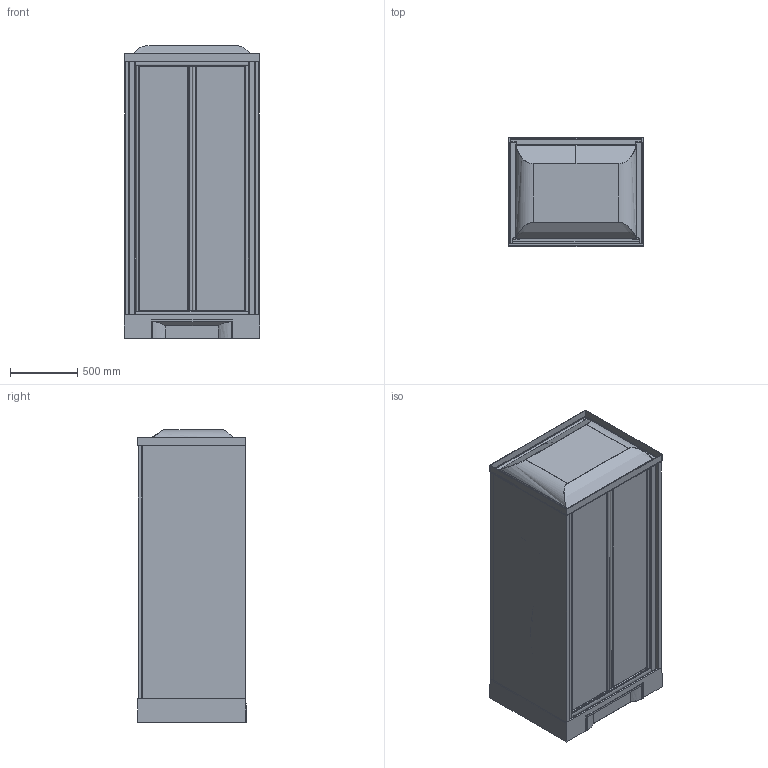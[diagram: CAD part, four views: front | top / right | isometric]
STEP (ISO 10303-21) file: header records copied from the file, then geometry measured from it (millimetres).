
FILE_DESCRIPTION(('STEP AP203'),'2;1');
FILE_NAME('NNH BI 100 M T.stp','2015-09-04T15:05:29',(''),(''),'2014.1.117','THINKDESIGN','');
FILE_SCHEMA(('CONFIG_CONTROL_DESIGN'));
Bounding box: 1004.04 x 807.53 x 2170 mm (x, y, z)
Volume: 273706906.6 mm3; surface area: 20918830.6 mm2
Topology: 24 solids, 24 shells, 635 faces, 1642 edges, 1060 vertices
Faces by surface type: bspline 361, plane 225, cylinder 49
Entity records: 70049 total; most frequent: CARTESIAN_POINT 57282, ORIENTED_EDGE 3178, EDGE_CURVE 1589, DIRECTION 1497, VERTEX_POINT 1023, VECTOR 719, LINE 719, EDGE_LOOP 650
